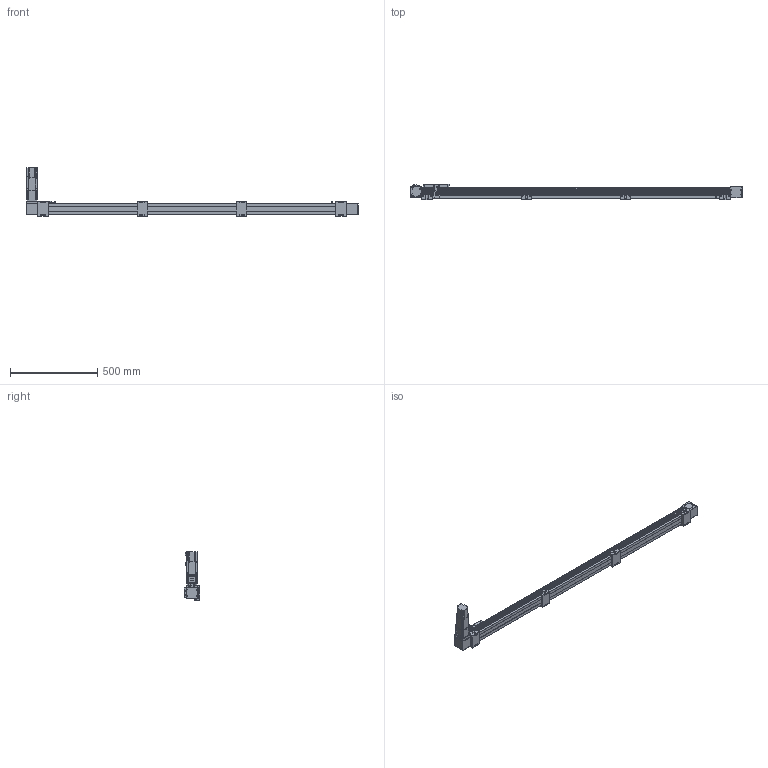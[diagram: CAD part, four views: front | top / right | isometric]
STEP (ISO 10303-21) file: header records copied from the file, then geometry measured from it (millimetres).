
FILE_DESCRIPTION(/* description */ ('STEP AP203'),/* implementation_level */ '2;1');
FILE_NAME(/* name */ 'SK60-P13-S1600-BL-T40-C1-N(0)',/* time_stamp */ '2023-04-06T03:37:15+02:00',/* author */ ('License CC BY-ND 4.0'),/* organization */ ('CADENAS'),/* preprocessor_version */ 'ST-DEVELOPER v19.3',/* originating_system */ 'PARTsolutions',/* authorisation */ ' ');
FILE_SCHEMA (('CONFIG_CONTROL_DESIGN'));
Length unit declared in the file: millimetre
Products named in the file (11): SK60-P13-S1600-BL-T40-C1-N(0); PSC140-sensor; SK60-S450_seat; SK60-S450-BL-C1_slider; SK60_body3; SK60_body6; SK60-BL_body2; T40-p1; SK60_body5; SK60_body4; SK60-S1600-BL-C1_body
Assembly tree (19 placements, depth 2):
  SK60-P13-S1600-BL-T40-C1-N(0)
    PSC140-sensor  x3
    SK60-S450_seat  x4
    SK60-S450-BL-C1_slider
    SK60_body3  x3
    SK60_body6  x2
    SK60-BL_body2  x2
    T40-p1
    SK60_body5
    SK60_body4
    SK60-S1600-BL-C1_body
Bounding box: 1900 x 90 x 278.2 mm (x, y, z)
Volume: 7083441.7 mm3; surface area: 908046.2 mm2
Topology: 19 solids, 23 shells, 922 faces, 2305 edges, 1522 vertices
Faces by surface type: plane 592, cylinder 298, cone 30, torus 2
Full cylindrical faces by diameter (mm): 2.8 x3, 3.3 x4, 4.2 x8, 4.5 x26, 4.6 x3, 4.917 x24, 5 x2, 5.478 x4, 5.5 x27, 6.5 x8, 8 x4, 8.5 x4, 9.988 x4, 10 x16, 13.556 x1, 14 x1, 14.586 x1, 19.692 x1, 38.432 x2, 43 x1, 44 x3, 47 x2, 50 x2
Entity records: 19387 total; most frequent: DIRECTION 3296, CARTESIAN_POINT 3291, ORIENTED_EDGE 3050, EDGE_CURVE 1525, AXIS2_PLACEMENT_3D 1102, LINE 1092, VECTOR 1092, VERTEX_POINT 1077
